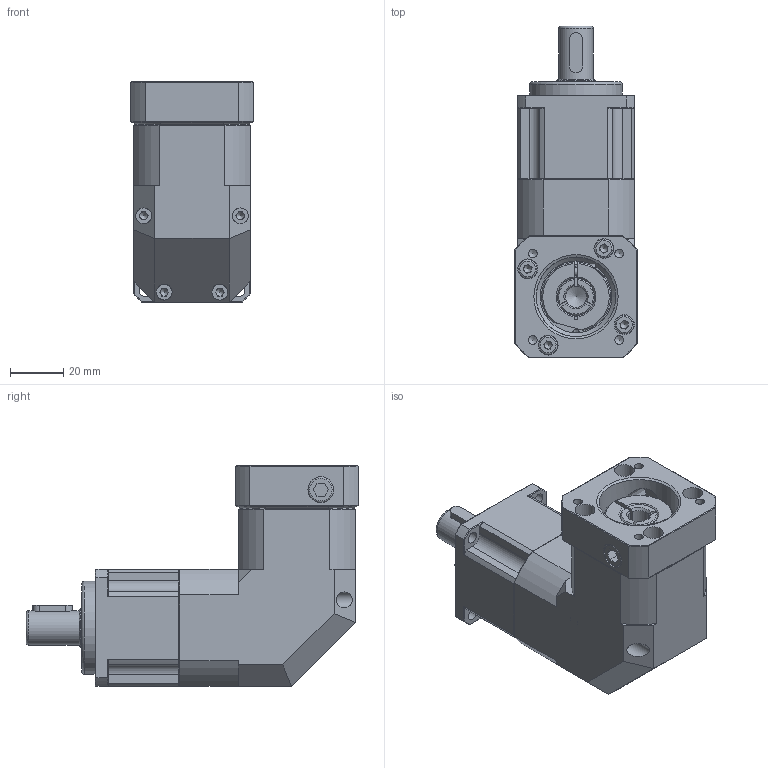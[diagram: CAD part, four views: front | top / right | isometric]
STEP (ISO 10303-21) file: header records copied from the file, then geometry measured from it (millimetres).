
FILE_DESCRIPTION((''),'2;1');
FILE_NAME('C:\Work\감속기 카다로그 도면\ATG Reducer(홈페이지)\PBL-H\STP\PBL44-H-1.stp','2014-05-27T14:46:41',('young'),(''),'Autodesk Inventor 2012','Autodesk Inventor 2012','');
FILE_SCHEMA(('AUTOMOTIVE_DESIGN { 1 0 10303 214 1 1 1 1 }'));
Length unit declared in the file: millimetre
Products named in the file (1): PBL44-H-1
Bounding box: 46 x 125 x 83 mm (x, y, z)
Volume: 182452.6 mm3; surface area: 63562.6 mm2
Topology: 20 solids, 20 shells, 648 faces, 1622 edges, 1056 vertices
Faces by surface type: plane 355, cylinder 140, cone 107, bspline 30, torus 16
Full cylindrical faces by diameter (mm): 2.5 x8, 3 x1, 3.3 x13, 3.5 x1, 4 x13, 4.5 x8, 5.5 x1, 6 x4, 7 x8, 7.5 x4, 8 x1, 9.5 x2, 11 x1, 13 x1, 14.2 x1, 14.8 x2, 15 x2, 22 x3, 25 x3, 27 x1, 28 x1, 29 x1, 30 x1, 32 x4, 34 x1, 35 x1, 37 x1
Entity records: 33007 total; most frequent: CARTESIAN_POINT 18710, DIRECTION 2825, ORIENTED_EDGE 2812, EDGE_CURVE 1406, AXIS2_PLACEMENT_3D 1081, VERTEX_POINT 1002, EDGE_LOOP 894, VECTOR 663
